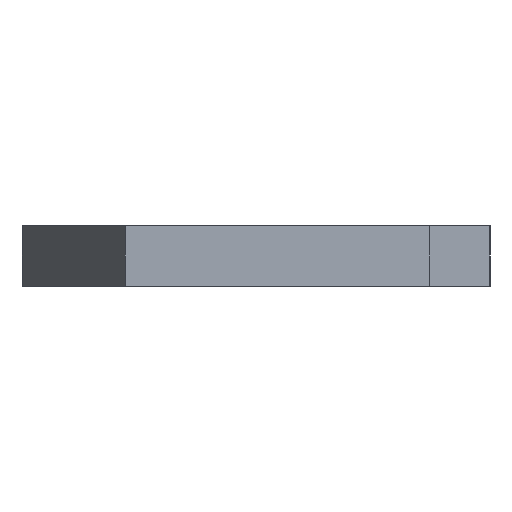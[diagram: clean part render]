
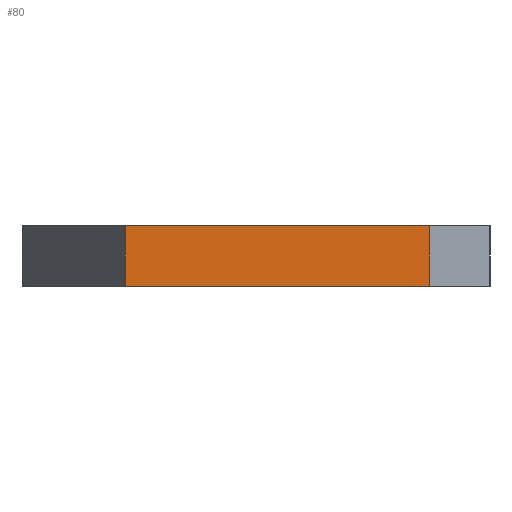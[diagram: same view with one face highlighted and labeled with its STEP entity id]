
A CAD part, left-side view. The second image highlights one B-rep face of the part: STEP entity #80.
In plain terms, the highlighted planar face has unit normal (-1, 0, 0).
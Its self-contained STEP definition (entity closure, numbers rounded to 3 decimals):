
#80=ADVANCED_FACE('',(#177),#1721,.T.);
#177=FACE_OUTER_BOUND('',#274,.T.);
#274=EDGE_LOOP('',(#538,#539,#540,#541));
#538=ORIENTED_EDGE('',*,*,#1058,.T.);
#539=ORIENTED_EDGE('',*,*,#1059,.T.);
#540=ORIENTED_EDGE('',*,*,#1060,.F.);
#541=ORIENTED_EDGE('',*,*,#1056,.F.);
#1056=EDGE_CURVE('',#1576,#1577,#1359,.T.);
#1058=EDGE_CURVE('',#1576,#1578,#1361,.T.);
#1059=EDGE_CURVE('',#1578,#1579,#1362,.T.);
#1060=EDGE_CURVE('',#1577,#1579,#1363,.T.);
#1359=B_SPLINE_CURVE_WITH_KNOTS('',1,(#2626,#2627),.UNSPECIFIED.,.F.,.F.,
(2,2),(0.,5.),.UNSPECIFIED.);
#1361=B_SPLINE_CURVE_WITH_KNOTS('',1,(#2630,#2631,#2632,#2633),
 .UNSPECIFIED.,.F.,.F.,(2,1,1,2),(-63.,-62.,-61.,-60.),.UNSPECIFIED.);
#1362=B_SPLINE_CURVE_WITH_KNOTS('',1,(#2634,#2635),.UNSPECIFIED.,.F.,.F.,
(2,2),(0.,5.),.UNSPECIFIED.);
#1363=B_SPLINE_CURVE_WITH_KNOTS('',1,(#2636,#2637,#2638,#2639),
 .UNSPECIFIED.,.F.,.F.,(2,1,1,2),(-63.,-62.,-61.,-60.),.UNSPECIFIED.);
#1576=VERTEX_POINT('',#2222);
#1577=VERTEX_POINT('',#2223);
#1578=VERTEX_POINT('',#2224);
#1579=VERTEX_POINT('',#2225);
#1721=PLANE('',#1832);
#1832=AXIS2_PLACEMENT_3D('',#2020,#1926,$);
#1926=DIRECTION('',(-1.,0.,0.));
#2020=CARTESIAN_POINT('',(-87.34,189.507,319.73));
#2222=CARTESIAN_POINT('',(-87.34,189.507,319.73));
#2223=CARTESIAN_POINT('',(-87.34,189.507,324.73));
#2224=CARTESIAN_POINT('',(-87.34,164.301,319.73));
#2225=CARTESIAN_POINT('',(-87.34,164.301,324.73));
#2626=CARTESIAN_POINT('',(-87.34,189.507,319.73));
#2627=CARTESIAN_POINT('',(-87.34,189.507,324.73));
#2630=CARTESIAN_POINT('',(-87.34,189.507,319.73));
#2631=CARTESIAN_POINT('',(-87.34,181.501,319.73));
#2632=CARTESIAN_POINT('',(-87.34,174.772,319.73));
#2633=CARTESIAN_POINT('',(-87.34,164.301,319.73));
#2634=CARTESIAN_POINT('',(-87.34,164.301,319.73));
#2635=CARTESIAN_POINT('',(-87.34,164.301,324.73));
#2636=CARTESIAN_POINT('',(-87.34,189.507,324.73));
#2637=CARTESIAN_POINT('',(-87.34,181.501,324.73));
#2638=CARTESIAN_POINT('',(-87.34,174.772,324.73));
#2639=CARTESIAN_POINT('',(-87.34,164.301,324.73));
